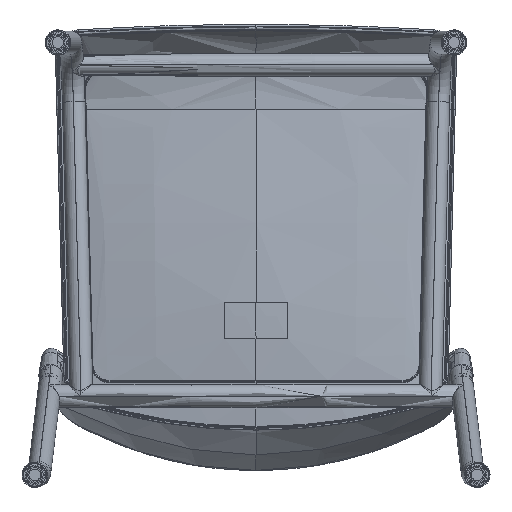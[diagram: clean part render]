
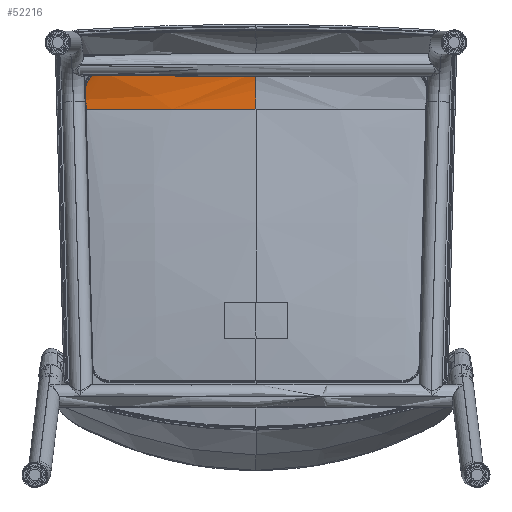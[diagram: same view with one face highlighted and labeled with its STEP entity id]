
A CAD part, front view. The second image highlights one B-rep face of the part: STEP entity #52216.
In plain terms, the highlighted free-form (B-spline) face has degree [3, 3] with [11, 5] control points.
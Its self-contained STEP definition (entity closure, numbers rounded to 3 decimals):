
#40637=CARTESIAN_POINT('',(0.,-2.539,149.075));
#41281=CARTESIAN_POINT('',(-189.918,10.932,
149.876));
#41309=CARTESIAN_POINT('',(0.,-2.539,149.075));
#41310=CARTESIAN_POINT('',(-38.413,-2.539,
149.075));
#41311=CARTESIAN_POINT('',(-96.29,0.114,
149.324));
#41312=CARTESIAN_POINT('',(-159.411,6.86,
149.696));
#41313=CARTESIAN_POINT('',(-184.139,10.133,
149.843));
#41314=CARTESIAN_POINT('',(-189.918,10.932,
149.876));
#42182=CARTESIAN_POINT('',(-190.474,8.825,
170.918));
#42183=CARTESIAN_POINT('',(-190.417,9.282,
168.754));
#42184=CARTESIAN_POINT('',(-190.298,10.058,
164.313));
#42185=CARTESIAN_POINT('',(-190.113,10.777,
157.312));
#42186=CARTESIAN_POINT('',(-189.984,10.938,
152.396));
#42187=CARTESIAN_POINT('',(-189.918,10.932,
149.876));
#42189=CARTESIAN_POINT('',(-170.944,0.237,
191.029));
#42190=CARTESIAN_POINT('',(-172.176,0.337,
191.034));
#42191=CARTESIAN_POINT('',(-174.617,0.642,
190.812));
#42192=CARTESIAN_POINT('',(-178.267,1.436,
189.757));
#42193=CARTESIAN_POINT('',(-181.718,2.532,
187.964));
#42194=CARTESIAN_POINT('',(-184.83,3.863,
185.443));
#42195=CARTESIAN_POINT('',(-187.41,5.311,
182.268));
#42196=CARTESIAN_POINT('',(-189.267,6.706,
178.645));
#42197=CARTESIAN_POINT('',(-190.327,7.918,
174.79));
#42198=CARTESIAN_POINT('',(-190.509,8.55,
172.218));
#42199=CARTESIAN_POINT('',(-190.474,8.825,
170.918));
#42201=CARTESIAN_POINT('',(0.,-6.671,
190.702));
#42202=CARTESIAN_POINT('',(-18.949,-6.671,
190.702));
#42203=CARTESIAN_POINT('',(-57.028,-6.156,
190.728));
#42204=CARTESIAN_POINT('',(-114.39,-3.836,
190.843));
#42205=CARTESIAN_POINT('',(-152.198,-1.286,
190.961));
#42206=CARTESIAN_POINT('',(-170.944,0.237,
191.029));
#42306=CARTESIAN_POINT('',(0.,-2.539,149.075));
#42307=CARTESIAN_POINT('',(0.,-2.476,
154.259));
#42308=CARTESIAN_POINT('',(0.,-2.573,
164.398));
#42309=CARTESIAN_POINT('',(0.,-3.808,
178.295));
#42310=CARTESIAN_POINT('',(0.,-5.557,
186.754));
#42311=CARTESIAN_POINT('',(0.,-6.671,
190.702));
#44982=VERTEX_POINT('',#41281);
#44984=VERTEX_POINT('',#42182);
#44986=VERTEX_POINT('',#42189);
#45020=VERTEX_POINT('',#40637);
#45021=VERTEX_POINT('',#42311);
#52149=CARTESIAN_POINT('',(-222.258,-33.935,
229.651));
#52150=CARTESIAN_POINT('',(-186.969,-37.849,
231.547));
#52151=CARTESIAN_POINT('',(-112.312,-43.361,
234.463));
#52152=CARTESIAN_POINT('',(-37.162,-44.739,
235.399));
#52153=CARTESIAN_POINT('',(1.95,-44.714,
235.382));
#52154=CARTESIAN_POINT('',(-222.245,-33.136,
229.218));
#52155=CARTESIAN_POINT('',(-186.969,-36.986,
231.064));
#52156=CARTESIAN_POINT('',(-112.317,-42.338,
233.903));
#52157=CARTESIAN_POINT('',(-37.158,-43.615,
234.814));
#52158=CARTESIAN_POINT('',(1.949,-43.592,
234.797));
#52159=CARTESIAN_POINT('',(-222.168,-28.449,
226.607));
#52160=CARTESIAN_POINT('',(-186.973,-31.949,
228.159));
#52161=CARTESIAN_POINT('',(-112.348,-36.424,
230.548));
#52162=CARTESIAN_POINT('',(-37.137,-37.151,
231.311));
#52163=CARTESIAN_POINT('',(1.948,-37.138,
231.298));
#52164=CARTESIAN_POINT('',(-222.015,-20.362,
221.265));
#52165=CARTESIAN_POINT('',(-186.963,-23.467,
222.329));
#52166=CARTESIAN_POINT('',(-112.397,-27.104,
223.979));
#52167=CARTESIAN_POINT('',(-37.102,-27.372,
224.502));
#52168=CARTESIAN_POINT('',(1.947,-27.367,
224.492));
#52169=CARTESIAN_POINT('',(-221.789,-10.449,
212.595));
#52170=CARTESIAN_POINT('',(-186.906,-13.478,
213.142));
#52171=CARTESIAN_POINT('',(-112.439,-17.29,
214.06));
#52172=CARTESIAN_POINT('',(-37.071,-17.833,
214.417));
#52173=CARTESIAN_POINT('',(1.945,-17.823,
214.411));
#52174=CARTESIAN_POINT('',(-221.557,-1.834,
202.596));
#52175=CARTESIAN_POINT('',(-186.801,-5.118,
202.776));
#52176=CARTESIAN_POINT('',(-112.445,-9.869,
203.193));
#52177=CARTESIAN_POINT('',(-37.058,-11.109,
203.463));
#52178=CARTESIAN_POINT('',(1.944,-11.087,
203.458));
#52179=CARTESIAN_POINT('',(-221.324,5.315,
191.309));
#52180=CARTESIAN_POINT('',(-186.636,1.538,
191.276));
#52181=CARTESIAN_POINT('',(-112.393,-4.537,
191.386));
#52182=CARTESIAN_POINT('',(-37.052,-6.602,
191.56));
#52183=CARTESIAN_POINT('',(1.944,-6.565,
191.557));
#52184=CARTESIAN_POINT('',(-221.102,10.832,
178.792));
#52185=CARTESIAN_POINT('',(-186.391,6.389,
178.683));
#52186=CARTESIAN_POINT('',(-112.247,-1.084,
178.566));
#52187=CARTESIAN_POINT('',(-37.051,-3.88,
178.548));
#52188=CARTESIAN_POINT('',(1.944,-3.829,
178.548));
#52189=CARTESIAN_POINT('',(-220.848,14.547,
164.78));
#52190=CARTESIAN_POINT('',(-186.086,9.418,
164.643));
#52191=CARTESIAN_POINT('',(-112.038,0.724,
164.291));
#52192=CARTESIAN_POINT('',(-37.031,-2.602,
164.058));
#52193=CARTESIAN_POINT('',(1.943,-2.542,
164.062));
#52194=CARTESIAN_POINT('',(-220.613,15.487,
154.49));
#52195=CARTESIAN_POINT('',(-185.872,10.032,
154.324));
#52196=CARTESIAN_POINT('',(-111.916,0.892,153.85));
#52197=CARTESIAN_POINT('',(-37.005,-2.53,
153.531));
#52198=CARTESIAN_POINT('',(1.941,-2.469,
153.536));
#52199=CARTESIAN_POINT('',(-220.462,15.489,
148.94));
#52200=CARTESIAN_POINT('',(-185.765,9.941,
148.758));
#52201=CARTESIAN_POINT('',(-111.887,0.75,
148.273));
#52202=CARTESIAN_POINT('',(-37.006,-2.613,
147.961));
#52203=CARTESIAN_POINT('',(1.941,-2.553,
147.967));
#52204=B_SPLINE_SURFACE_WITH_KNOTS('',3,3,((#52149,#52150,#52151,#52152,#52153),
(#52154,#52155,#52156,#52157,#52158),(#52159,#52160,#52161,#52162,#52163),(
#52164,#52165,#52166,#52167,#52168),(#52169,#52170,#52171,#52172,#52173),
(#52174,#52175,#52176,#52177,#52178),(#52179,#52180,#52181,#52182,#52183),(
#52184,#52185,#52186,#52187,#52188),(#52189,#52190,#52191,#52192,#52193),
(#52194,#52195,#52196,#52197,#52198),(#52199,#52200,#52201,#52202,#52203)),
.UNSPECIFIED.,.F.,.F.,.F.,(4,1,1,1,1,1,1,1,4),(4,1,4),(0.057,
0.083,0.214,0.345,0.476,
0.607,0.738,0.869,1.009),(
-0.073,0.444,1.009),.UNSPECIFIED.);
#52206=ORIENTED_EDGE('',*,*,#52205,.F.);
#52207=ORIENTED_EDGE('',*,*,#49180,.T.);
#52209=ORIENTED_EDGE('',*,*,#52208,.F.);
#52211=ORIENTED_EDGE('',*,*,#52210,.F.);
#52213=ORIENTED_EDGE('',*,*,#52212,.F.);
#52214=EDGE_LOOP('',(#52206,#52207,#52209,#52211,#52213));
#52215=FACE_OUTER_BOUND('',#52214,.F.);
#52216=ADVANCED_FACE('',(#52215),#52204,.T.);
#41315=B_SPLINE_CURVE_WITH_KNOTS('',3,(#41309,#41310,#41311,#41312,#41313,
#41314),.UNSPECIFIED.,.F.,.F.,(4,1,1,4),(0.,0.605,
0.907,1.),.UNSPECIFIED.);
#42188=B_SPLINE_CURVE_WITH_KNOTS('',3,(#42182,#42183,#42184,#42185,#42186,
#42187),.UNSPECIFIED.,.F.,.F.,(4,1,1,4),(0.,0.333,
0.667,1.),.UNSPECIFIED.);
#42200=B_SPLINE_CURVE_WITH_KNOTS('',3,(#42189,#42190,#42191,#42192,#42193,
#42194,#42195,#42196,#42197,#42198,#42199),.UNSPECIFIED.,.F.,.F.,(4,1,1,1,1,1,1,
1,4),(0.,0.125,0.25,0.375,0.5,0.625,0.75,0.875,1.),
.UNSPECIFIED.);
#42207=B_SPLINE_CURVE_WITH_KNOTS('',3,(#42201,#42202,#42203,#42204,#42205,
#42206),.UNSPECIFIED.,.F.,.F.,(4,1,1,4),(0.,0.333,
0.667,1.),.UNSPECIFIED.);
#42312=B_SPLINE_CURVE_WITH_KNOTS('',3,(#42306,#42307,#42308,#42309,#42310,
#42311),.UNSPECIFIED.,.F.,.F.,(4,1,1,4),(0.,0.339,
0.679,1.),.UNSPECIFIED.);
#49180=EDGE_CURVE('',#45020,#44982,#41315,.T.);
#52205=EDGE_CURVE('',#45020,#45021,#42312,.T.);
#52208=EDGE_CURVE('',#44984,#44982,#42188,.T.);
#52210=EDGE_CURVE('',#44986,#44984,#42200,.T.);
#52212=EDGE_CURVE('',#45021,#44986,#42207,.T.);
